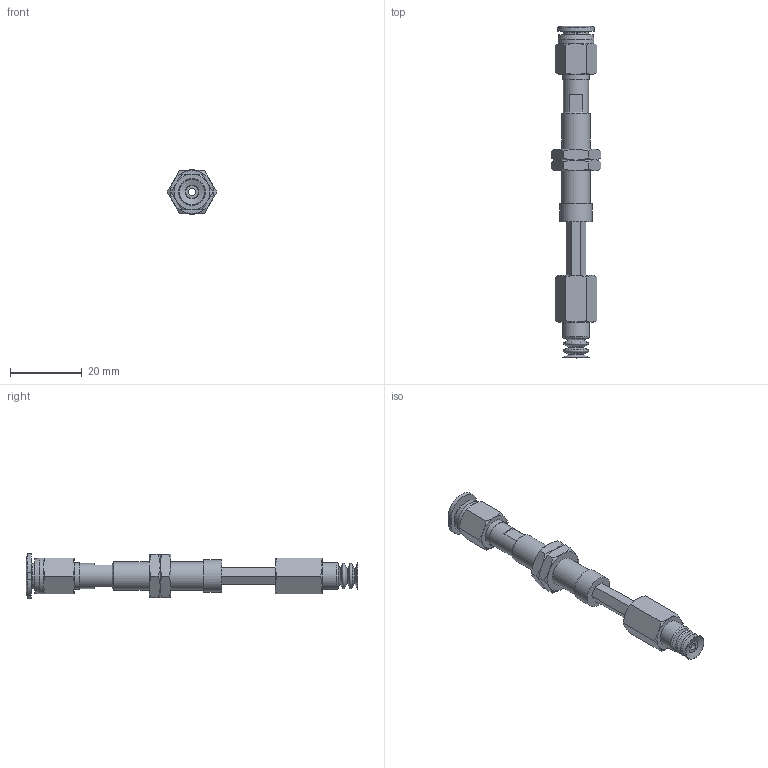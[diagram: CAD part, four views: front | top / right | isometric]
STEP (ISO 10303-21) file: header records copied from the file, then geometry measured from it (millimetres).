
FILE_DESCRIPTION(('STEP AP203'),'1');
FILE_NAME('-O.stp','2025-08-27T01:31:27',(' '),(' '),'Spatial InterOp 3D',' ',' ');
FILE_SCHEMA(('CONFIG_CONTROL_DESIGN'));
Length unit declared in the file: millimetre
Products named in the file (7): BNABPCTH-7-15-※-O; ADAPTER; NAPATH-10A-15--M; Nut napc_h-7-15; NAPCTH-7-15-FBODY; BPCG-7-※; PC-C_06-M5
Assembly tree (7 placements, depth 2):
  BNABPCTH-7-15-※-O
    ADAPTER
    NAPATH-10A-15--M
    Nut napc_h-7-15  x2
    NAPCTH-7-15-FBODY
    BPCG-7-※
    PC-C_06-M5
Bounding box: 13.86 x 92.48 x 12.4 mm (x, y, z)
Volume: 3883.3 mm3; surface area: 5838.4 mm2
Topology: 6 solids, 9 shells, 181 faces, 376 edges, 225 vertices
Faces by surface type: plane 70, cone 66, cylinder 23, torus 15, bspline 4, revolution 3
Full cylindrical faces by diameter (mm): 2 x3, 4 x4, 4.134 x1, 5 x1, 6 x2, 7 x2, 7.188 x2, 7.4 x1, 7.5 x1, 8 x1, 8.2 x1, 9 x1, 10 x1
Entity records: 4632 total; most frequent: CARTESIAN_POINT 1265, DIRECTION 627, ORIENTED_EDGE 536, AXIS2_PLACEMENT_3D 274, EDGE_CURVE 270, EDGE_LOOP 236, VERTEX_POINT 192, FACE_OUTER_BOUND 133
